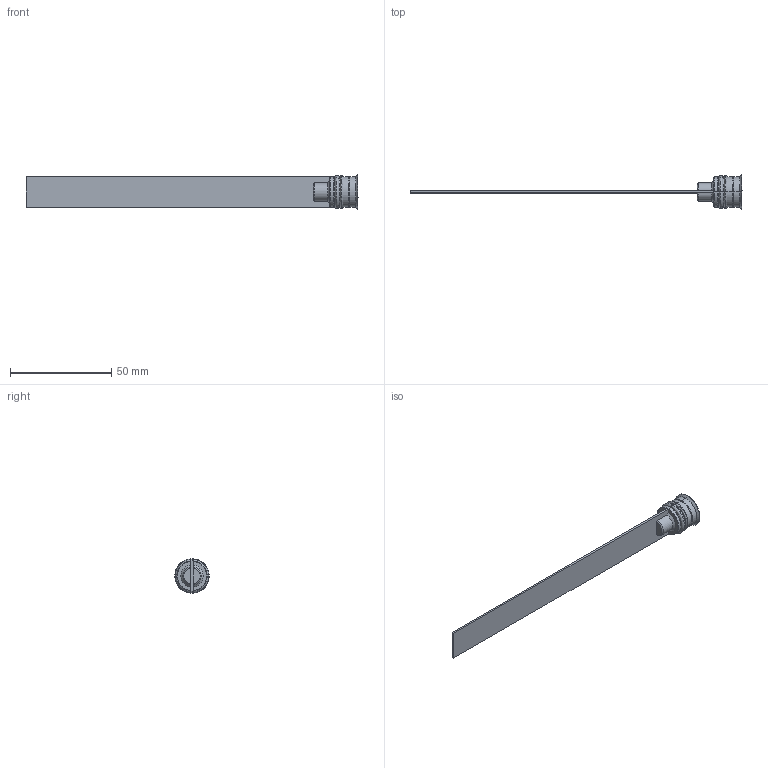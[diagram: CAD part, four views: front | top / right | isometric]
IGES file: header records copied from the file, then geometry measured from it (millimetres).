
Start section: START RECORD GO HERE.
Global section: file name: RL-15Fx150.igs; native system: DASSAULT SYSTEMES CATIA V5 R20 - www.3ds.com; preprocessor: CATIA Version 5 Release 20 ; author: Utente; organization: NB04-ASUS; date: 20210303.200630; units: millimetre
Bounding box: 164 x 17 x 17 mm (x, y, z)
Surface area: 6457.2 mm2 (no closed solid volume)
Topology: 0 solids, 0 shells, 73 faces, 400 edges, 400 vertices
Faces by surface type: revolution 44, plane 29
